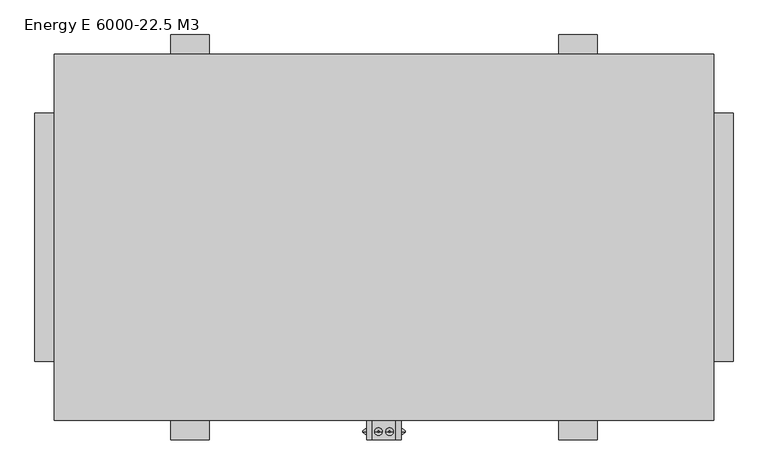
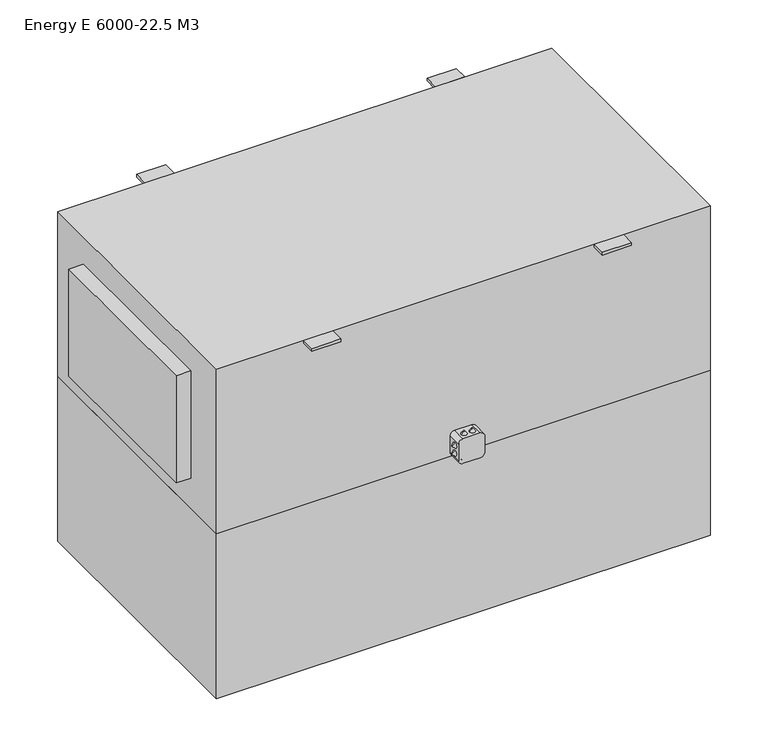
"""IFC4 building model written with IfcOpenShell, lengths in millimetres: proxy geometry, ADSK_КПВУ_ENERGY E_прямоугольная : Energy E 6000-22.5 M3."""

from ifc_helpers import new_model, si_unit, point, frame, frame_2d, origin, place, context, project, spatial, polyline, circle_curve, trimmed, segment, composite_curve, outline, extrude, faceted_brep, source, transform, mapped, element, save
from ifc_brep_helpers import plane_surface, revolved_surface, advanced_brep


def energy_e_6000_22_5_m3_f49a07c8(model_context):
    return source(origin(), model_context, "Body", "SolidModel", [
        advanced_brep(
        [(211.0, -501.4311792, -271.7092609), (211.0, -501.4311792, -267.7092609), (221.0, -501.4311792, -279.7092609), (221.0, -501.4311792, -259.7092609)],
        [
            (0, 1, circle_curve(frame((211.0, -501.4311792, -269.7092609), z_axis=(-1.0, 0.0, 0.0), x_axis=(0.0, 0.0, -1.0)), 2.0)),
            (1, 0, circle_curve(frame((211.0, -501.4311792, -269.7092609), z_axis=(-1.0, 0.0, 0.0), x_axis=(0.0, 0.0, 1.0)), 2.0)),
            (2, 3, circle_curve(frame((221.0, -501.4311792, -269.7092609), z_axis=(1.0, 0.0, 0.0), x_axis=(0.0, 0.0, 1.0)), 10.0)),
            (3, 2, circle_curve(frame((221.0, -501.4311792, -269.7092609), z_axis=(1.0, 0.0, 0.0), x_axis=(0.0, 0.0, -1.0)), 10.0)),
            (2, 0),
            (1, 3),
        ],
        [
            plane_surface(frame((211.0, -501.4311792, -269.7092609), z_axis=(-1.0, 0.0, 0.0), x_axis=(0.0, -1.0, 0.0))),
            plane_surface(frame((221.0, -501.4311792, -269.7092609), z_axis=(1.0, 0.0, 0.0), x_axis=(0.0, -1.0, 0.0))),
            revolved_surface(polyline([(211.0, -501.4311792, -267.7092609), (221.0, -501.4311792, -259.7092609)]), (208.5, -501.4311792, -269.7092609), (1.0, 0.0, 0.0)),
            revolved_surface(polyline([(211.0, -501.4311792, -271.7092609), (221.0, -501.4311792, -279.7092609)]), (208.5, -501.4311792, -269.7092609), (1.0, 0.0, 0.0)),
        ],
        [
            (0, [[1, 2]]),
            (1, [[3, 4]]),
            (2, [[-3, 5, -2, 6]]),
            (3, [[-4, -6, -1, -5]]),
        ],
    ),
        advanced_brep(
        [(211.0, -501.4311792, -239.0531164), (211.0, -501.4311792, -243.0531164), (221.0, -501.4311792, -231.0531164), (221.0, -501.4311792, -251.0531164)],
        [
            (0, 1, circle_curve(frame((211.0, -501.4311792, -241.0531164), z_axis=(-1.0, 0.0, 0.0), x_axis=(0.0, 0.0, 1.0)), 2.0)),
            (1, 0, circle_curve(frame((211.0, -501.4311792, -241.0531164), z_axis=(-1.0, 0.0, 0.0), x_axis=(0.0, 0.0, -1.0)), 2.0)),
            (2, 3, circle_curve(frame((221.0, -501.4311792, -241.0531164), z_axis=(1.0, 0.0, 0.0), x_axis=(0.0, 0.0, -1.0)), 10.0)),
            (3, 2, circle_curve(frame((221.0, -501.4311792, -241.0531164), z_axis=(1.0, 0.0, 0.0), x_axis=(0.0, 0.0, 1.0)), 10.0)),
            (3, 1),
            (0, 2),
        ],
        [
            plane_surface(frame((211.0, -501.4311792, -241.0531164), z_axis=(-1.0, 0.0, 0.0), x_axis=(0.0, 1.0, 0.0))),
            plane_surface(frame((221.0, -501.4311792, -241.0531164), z_axis=(1.0, 0.0, 0.0), x_axis=(0.0, 1.0, 0.0))),
            revolved_surface(polyline([(211.0, -501.4311792, -239.0531164), (221.0, -501.4311792, -231.0531164)]), (208.5, -501.4311792, -241.0531164), (1.0, 0.0, 0.0)),
            revolved_surface(polyline([(211.0, -501.4311792, -243.0531164), (221.0, -501.4311792, -251.0531164)]), (208.5, -501.4311792, -241.0531164), (1.0, 0.0, 0.0)),
        ],
        [
            (0, [[1, 2]]),
            (1, [[3, 4]]),
            (2, [[-4, 5, -1, 6]]),
            (3, [[-3, -6, -2, -5]]),
        ],
    ),
        advanced_brep(
        [(321.0, -501.4311792, -271.7092609), (321.0, -501.4311792, -267.7092609), (311.0, -501.4311792, -279.7092609), (311.0, -501.4311792, -259.7092609)],
        [
            (0, 1, circle_curve(frame((321.0, -501.4311792, -269.7092609), z_axis=(1.0, 0.0, 0.0), x_axis=(0.0, 0.0, -1.0)), 2.0)),
            (1, 0, circle_curve(frame((321.0, -501.4311792, -269.7092609), z_axis=(1.0, 0.0, 0.0), x_axis=(0.0, 0.0, 1.0)), 2.0)),
            (2, 3, circle_curve(frame((311.0, -501.4311792, -269.7092609), z_axis=(-1.0, 0.0, 0.0), x_axis=(0.0, 0.0, 1.0)), 10.0)),
            (3, 2, circle_curve(frame((311.0, -501.4311792, -269.7092609), z_axis=(-1.0, 0.0, 0.0), x_axis=(0.0, 0.0, -1.0)), 10.0)),
            (3, 1),
            (0, 2),
        ],
        [
            plane_surface(frame((321.0, -501.4311792, -269.7092609), z_axis=(1.0, 0.0, 0.0), x_axis=(0.0, 1.0, 0.0))),
            plane_surface(frame((311.0, -501.4311792, -269.7092609), z_axis=(-1.0, 0.0, 0.0), x_axis=(0.0, 1.0, 0.0))),
            revolved_surface(polyline([(321.0, -501.4311792, -271.7092609), (311.0, -501.4311792, -279.7092609)]), (323.5, -501.4311792, -269.7092609), (-1.0, 0.0, 0.0)),
            revolved_surface(polyline([(321.0, -501.4311792, -267.7092609), (311.0, -501.4311792, -259.7092609)]), (323.5, -501.4311792, -269.7092609), (-1.0, 0.0, 0.0)),
        ],
        [
            (0, [[1, 2]]),
            (1, [[3, 4]]),
            (2, [[-4, 5, -1, 6]]),
            (3, [[-3, -6, -2, -5]]),
        ],
    ),
        advanced_brep(
        [(321.0, -501.4311792, -239.0531164), (321.0, -501.4311792, -243.0531164), (311.0, -501.4311792, -231.0531164), (311.0, -501.4311792, -251.0531164)],
        [
            (0, 1, circle_curve(frame((321.0, -501.4311792, -241.0531164), z_axis=(1.0, 0.0, 0.0), x_axis=(0.0, 0.0, 1.0)), 2.0)),
            (1, 0, circle_curve(frame((321.0, -501.4311792, -241.0531164), z_axis=(1.0, 0.0, 0.0), x_axis=(0.0, 0.0, -1.0)), 2.0)),
            (2, 3, circle_curve(frame((311.0, -501.4311792, -241.0531164), z_axis=(-1.0, 0.0, 0.0), x_axis=(0.0, 0.0, -1.0)), 10.0)),
            (3, 2, circle_curve(frame((311.0, -501.4311792, -241.0531164), z_axis=(-1.0, 0.0, 0.0), x_axis=(0.0, 0.0, 1.0)), 10.0)),
            (2, 0),
            (1, 3),
        ],
        [
            plane_surface(frame((321.0, -501.4311792, -241.0531164), z_axis=(1.0, 0.0, 0.0), x_axis=(0.0, -1.0, 0.0))),
            plane_surface(frame((311.0, -501.4311792, -241.0531164), z_axis=(-1.0, 0.0, 0.0), x_axis=(0.0, -1.0, 0.0))),
            revolved_surface(polyline([(321.0, -501.4311792, -243.0531164), (311.0, -501.4311792, -251.0531164)]), (323.5, -501.4311792, -241.0531164), (-1.0, 0.0, 0.0)),
            revolved_surface(polyline([(321.0, -501.4311792, -239.0531164), (311.0, -501.4311792, -231.0531164)]), (323.5, -501.4311792, -241.0531164), (-1.0, 0.0, 0.0)),
        ],
        [
            (0, [[1, 2]]),
            (1, [[3, 4]]),
            (2, [[-3, 5, -2, 6]]),
            (3, [[-4, -6, -1, -5]]),
        ],
    ),
        advanced_brep(
        [(249.6719278, -501.4311792, -310.0), (253.6719278, -501.4311792, -310.0), (241.6719278, -501.4311792, -300.0), (261.6719278, -501.4311792, -300.0)],
        [
            (0, 1, circle_curve(frame((251.6719278, -501.4311792, -310.0), z_axis=(0.0, 0.0, -1.0), x_axis=(-1.0, 0.0, 0.0)), 2.0)),
            (1, 0, circle_curve(frame((251.6719278, -501.4311792, -310.0), z_axis=(0.0, 0.0, -1.0), x_axis=(1.0, 0.0, 0.0)), 2.0)),
            (2, 3, circle_curve(frame((251.6719278, -501.4311792, -300.0), z_axis=(0.0, 0.0, 1.0), x_axis=(1.0, 0.0, 0.0)), 10.0)),
            (3, 2, circle_curve(frame((251.6719278, -501.4311792, -300.0), z_axis=(0.0, 0.0, 1.0), x_axis=(-1.0, 0.0, 0.0)), 10.0)),
            (3, 1),
            (0, 2),
        ],
        [
            plane_surface(frame((251.6719278, -501.4311792, -310.0), z_axis=(0.0, 0.0, -1.0), x_axis=(0.0, 1.0, 0.0))),
            plane_surface(frame((251.6719278, -501.4311792, -300.0), z_axis=(0.0, 0.0, 1.0), x_axis=(0.0, 1.0, 0.0))),
            revolved_surface(polyline([(249.6719278, -501.4311792, -310.0), (241.6719278, -501.4311792, -300.0)]), (251.6719278, -501.4311792, -312.5), (0.0, 0.0, 1.0)),
            revolved_surface(polyline([(253.6719278, -501.4311792, -310.0), (261.6719278, -501.4311792, -300.0)]), (251.6719278, -501.4311792, -312.5), (0.0, 0.0, 1.0)),
        ],
        [
            (0, [[1, 2]]),
            (1, [[3, 4]]),
            (2, [[-4, 5, -1, 6]]),
            (3, [[-3, -6, -2, -5]]),
        ],
    ),
        advanced_brep(
        [(282.3280722, -501.4311792, -310.0), (278.3280722, -501.4311792, -310.0), (290.3280722, -501.4311792, -300.0), (270.3280722, -501.4311792, -300.0)],
        [
            (0, 1, circle_curve(frame((280.3280722, -501.4311792, -310.0), z_axis=(0.0, 0.0, -1.0), x_axis=(1.0, 0.0, 0.0)), 2.0)),
            (1, 0, circle_curve(frame((280.3280722, -501.4311792, -310.0), z_axis=(0.0, 0.0, -1.0), x_axis=(-1.0, 0.0, 0.0)), 2.0)),
            (2, 3, circle_curve(frame((280.3280722, -501.4311792, -300.0), z_axis=(0.0, 0.0, 1.0), x_axis=(-1.0, 0.0, 0.0)), 10.0)),
            (3, 2, circle_curve(frame((280.3280722, -501.4311792, -300.0), z_axis=(0.0, 0.0, 1.0), x_axis=(1.0, 0.0, 0.0)), 10.0)),
            (2, 0),
            (1, 3),
        ],
        [
            plane_surface(frame((280.3280722, -501.4311792, -310.0), z_axis=(0.0, 0.0, -1.0), x_axis=(0.0, -1.0, 0.0))),
            plane_surface(frame((280.3280722, -501.4311792, -300.0), z_axis=(0.0, 0.0, 1.0), x_axis=(0.0, -1.0, 0.0))),
            revolved_surface(polyline([(278.3280722, -501.4311792, -310.0), (270.3280722, -501.4311792, -300.0)]), (280.3280722, -501.4311792, -312.5), (0.0, 0.0, 1.0)),
            revolved_surface(polyline([(282.3280722, -501.4311792, -310.0), (290.3280722, -501.4311792, -300.0)]), (280.3280722, -501.4311792, -312.5), (0.0, 0.0, 1.0)),
        ],
        [
            (0, [[1, 2]]),
            (1, [[3, 4]]),
            (2, [[-3, 5, -2, 6]]),
            (3, [[-4, -6, -1, -5]]),
        ],
    ),
        advanced_brep(
        [(249.6719278, -501.4311792, -200.0), (253.6719278, -501.4311792, -200.0), (241.6719278, -501.4311792, -210.0), (261.6719278, -501.4311792, -210.0)],
        [
            (0, 1, circle_curve(frame((251.6719278, -501.4311792, -200.0), z_axis=(0.0, 0.0, 1.0), x_axis=(-1.0, 0.0, 0.0)), 2.0)),
            (1, 0, circle_curve(frame((251.6719278, -501.4311792, -200.0), z_axis=(0.0, 0.0, 1.0), x_axis=(1.0, 0.0, 0.0)), 2.0)),
            (2, 3, circle_curve(frame((251.6719278, -501.4311792, -210.0), z_axis=(0.0, 0.0, -1.0), x_axis=(1.0, 0.0, 0.0)), 10.0)),
            (3, 2, circle_curve(frame((251.6719278, -501.4311792, -210.0), z_axis=(0.0, 0.0, -1.0), x_axis=(-1.0, 0.0, 0.0)), 10.0)),
            (2, 0),
            (1, 3),
        ],
        [
            plane_surface(frame((251.6719278, -501.4311792, -200.0), z_axis=(0.0, 0.0, 1.0), x_axis=(0.0, -1.0, 0.0))),
            plane_surface(frame((251.6719278, -501.4311792, -210.0), z_axis=(0.0, 0.0, -1.0), x_axis=(0.0, -1.0, 0.0))),
            revolved_surface(polyline([(253.6719278, -501.4311792, -200.0), (261.6719278, -501.4311792, -210.0)]), (251.6719278, -501.4311792, -197.5), (0.0, 0.0, -1.0)),
            revolved_surface(polyline([(249.6719278, -501.4311792, -200.0), (241.6719278, -501.4311792, -210.0)]), (251.6719278, -501.4311792, -197.5), (0.0, 0.0, -1.0)),
        ],
        [
            (0, [[1, 2]]),
            (1, [[3, 4]]),
            (2, [[-3, 5, -2, 6]]),
            (3, [[-4, -6, -1, -5]]),
        ],
    ),
        advanced_brep(
        [(282.3280722, -501.4311792, -200.0), (278.3280722, -501.4311792, -200.0), (290.3280722, -501.4311792, -210.0), (270.3280722, -501.4311792, -210.0)],
        [
            (0, 1, circle_curve(frame((280.3280722, -501.4311792, -200.0), z_axis=(0.0, 0.0, 1.0), x_axis=(1.0, 0.0, 0.0)), 2.0)),
            (1, 0, circle_curve(frame((280.3280722, -501.4311792, -200.0), z_axis=(0.0, 0.0, 1.0), x_axis=(-1.0, 0.0, 0.0)), 2.0)),
            (2, 3, circle_curve(frame((280.3280722, -501.4311792, -210.0), z_axis=(0.0, 0.0, -1.0), x_axis=(-1.0, 0.0, 0.0)), 10.0)),
            (3, 2, circle_curve(frame((280.3280722, -501.4311792, -210.0), z_axis=(0.0, 0.0, -1.0), x_axis=(1.0, 0.0, 0.0)), 10.0)),
            (3, 1),
            (0, 2),
        ],
        [
            plane_surface(frame((280.3280722, -501.4311792, -200.0), z_axis=(0.0, 0.0, 1.0), x_axis=(0.0, 1.0, 0.0))),
            plane_surface(frame((280.3280722, -501.4311792, -210.0), z_axis=(0.0, 0.0, -1.0), x_axis=(0.0, 1.0, 0.0))),
            revolved_surface(polyline([(282.3280722, -501.4311792, -200.0), (290.3280722, -501.4311792, -210.0)]), (280.3280722, -501.4311792, -197.5), (0.0, 0.0, -1.0)),
            revolved_surface(polyline([(278.3280722, -501.4311792, -200.0), (270.3280722, -501.4311792, -210.0)]), (280.3280722, -501.4311792, -197.5), (0.0, 0.0, -1.0)),
        ],
        [
            (0, [[1, 2]]),
            (1, [[3, 4]]),
            (2, [[-4, 5, -1, 6]]),
            (3, [[-3, -6, -2, -5]]),
        ],
    ),
        extrude(outline(composite_curve([segment(polyline([(-300.0, 236.0), (-300.0, 296.0)]), True, "CONTINUOUS"), segment(trimmed(circle_curve(frame_2d((-285.0, 296.0)), 15.0), [point((-300.0, 296.0))], [point((-285.0, 311.0))], False, "CARTESIAN"), True, "CONTINUOUS"), segment(polyline([(-285.0, 311.0), (-225.0, 311.0)]), True, "CONTINUOUS"), segment(trimmed(circle_curve(frame_2d((-225.0, 296.0)), 15.0), [point((-225.0, 311.0))], [point((-210.0, 296.0))], False, "CARTESIAN"), True, "CONTINUOUS"), segment(polyline([(-210.0, 296.0), (-210.0, 236.0)]), True, "CONTINUOUS"), segment(trimmed(circle_curve(frame_2d((-225.0, 236.0)), 15.0), [point((-210.0, 236.0))], [point((-225.0, 221.0))], False, "CARTESIAN"), True, "CONTINUOUS"), segment(polyline([(-225.0, 221.0), (-285.0, 221.0)]), True, "CONTINUOUS"), segment(trimmed(circle_curve(frame_2d((-285.0, 236.0)), 15.0), [point((-285.0, 221.0))], [point((-300.0, 236.0))], False, "CARTESIAN"), True, "CONTINUOUS")], self_intersect=False)), frame((0.0, -522.5, 0.0), z_axis=(0.0, 1.0, 0.0), x_axis=(0.0, 0.0, 1.0)), (0.0, 0.0, 1.0), 50.0),
        extrude(outline(polyline([(1116.0, -320.0), (1116.0, 320.0), (1166.0, 320.0), (1166.0, -320.0), (1116.0, -320.0)])), frame((0.0, 0.0, -189.0), z_axis=(0.0, 0.0, 1.0), x_axis=(1.0, 0.0, 0.0)), (0.0, 0.0, 1.0), 390.0),
        faceted_brep([(1116.0, -472.5, 300.0), (1116.0, -472.5, -300.0), (1116.0, 472.5, -300.0), (1116.0, 472.5, 300.0), (-584.0, -472.5, 300.0), (-584.0, 472.5, 300.0), (-584.0, 472.5, -300.0), (-584.0, -472.5, -300.0), (-584.0, -320.0, 201.0), (-584.0, -320.0, -189.0), (-584.0, 320.0, -189.0), (-584.0, 320.0, 201.0), (-634.0, -320.0, 201.0), (-634.0, 320.0, 201.0), (-634.0, 320.0, -189.0), (-634.0, -320.0, -189.0)], [[[0, 1, 2, 3]], [[4, 5, 6, 7], [8, 9, 10, 11]], [[12, 13, 14, 15]], [[1, 0, 4, 7]], [[2, 1, 7, 6]], [[3, 2, 6, 5]], [[0, 3, 5, 4]], [[12, 15, 9, 8]], [[15, 14, 10, 9]], [[14, 13, 11, 10]], [[13, 12, 8, 11]]]),
        extrude(outline(polyline([(-284.0, 522.5), (-184.0, 522.5), (-184.0, 472.5), (-284.0, 472.5), (-284.0, 522.5)])), frame((0.0, 0.0, 290.0), z_axis=(0.0, 0.0, 1.0), x_axis=(1.0, 0.0, 0.0)), (0.0, 0.0, 1.0), 10.0),
        extrude(outline(polyline([(716.0, 522.5), (816.0, 522.5), (816.0, 472.5), (716.0, 472.5), (716.0, 522.5)])), frame((0.0, 0.0, 290.0), z_axis=(0.0, 0.0, 1.0), x_axis=(1.0, 0.0, 0.0)), (0.0, 0.0, 1.0), 10.0),
        extrude(outline(polyline([(-284.0, -522.5), (-284.0, -472.5), (-184.0, -472.5), (-184.0, -522.5), (-284.0, -522.5)])), frame((0.0, 0.0, 290.0), z_axis=(0.0, 0.0, 1.0), x_axis=(1.0, 0.0, 0.0)), (0.0, 0.0, 1.0), 10.0),
        extrude(outline(polyline([(716.0, -522.5), (716.0, -472.5), (816.0, -472.5), (816.0, -522.5), (716.0, -522.5)])), frame((0.0, 0.0, 290.0), z_axis=(0.0, 0.0, 1.0), x_axis=(1.0, 0.0, 0.0)), (0.0, 0.0, 1.0), 10.0),
        extrude(outline(polyline([(1116.0, 472.5), (1116.0, -472.5), (-584.0, -472.5), (-584.0, 472.5), (1116.0, 472.5)])), frame((0.0, 0.0, -900.0), z_axis=(0.0, 0.0, 1.0), x_axis=(1.0, 0.0, 0.0)), (0.0, 0.0, 1.0), 600.0),
    ])


if __name__ == "__main__":
    model = new_model("IFC4")
    model_context = context("Model", 3, world=origin())
    ifc_project = project(units=[si_unit("LENGTHUNIT", "METRE", prefix="MILLI")], contexts=[model_context])
    site = spatial("IfcSite", under=ifc_project)
    building = spatial("IfcBuilding", under=site)
    placement = place(None, origin())
    energy_e_6000_22_5_m3_shape = energy_e_6000_22_5_m3_f49a07c8(model_context)
    element("IfcBuildingElementProxy", 1, Name="ADSK_КПВУ_ENERGY E_прямоугольная : Energy E 6000-22.5 M3", ObjectType="ADSK_КПВУ_ENERGY E_прямоугольная : Energy E 6000-22.5 M3", at=placement, inside=building, context=model_context, shape_type="MappedRepresentation", body=[
        mapped(energy_e_6000_22_5_m3_shape, transform((0.0, 0.0, 0.0), x_axis=(1.0, 0.0, 0.0), y_axis=(0.0, 1.0, 0.0), z_axis=(0.0, 0.0, 1.0))),
    ])
    save(model, "model.ifc")
